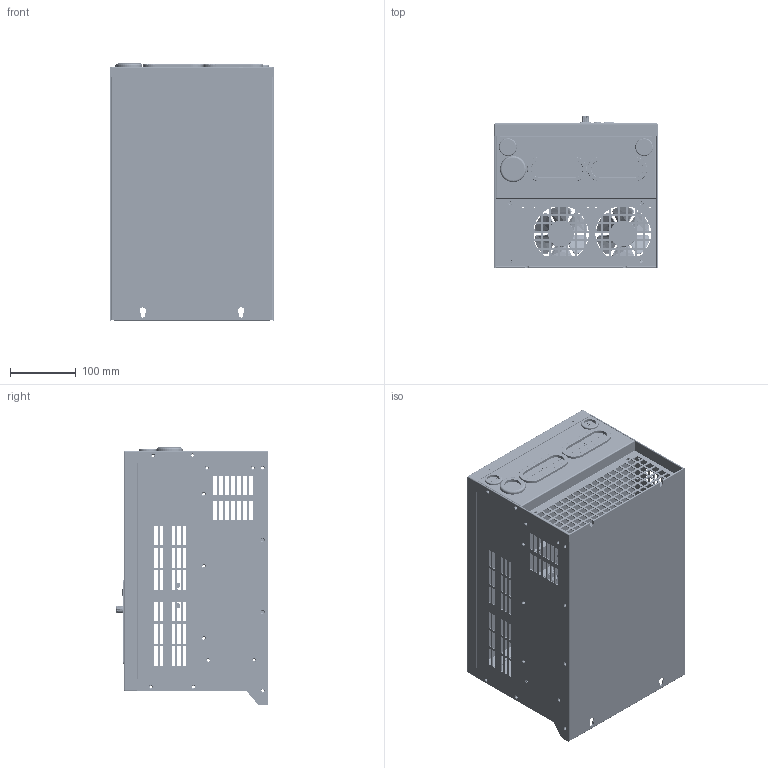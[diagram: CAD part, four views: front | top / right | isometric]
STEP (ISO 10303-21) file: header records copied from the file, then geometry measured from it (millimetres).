
FILE_DESCRIPTION((''),'2;1');
FILE_NAME('SD200-4T-22KW-30KW','2020-05-25T',('ranqinwen'),(''),'CREO PARAMETRIC BY PTC INC, 2016260','CREO PARAMETRIC BY PTC INC, 2016260','');
FILE_SCHEMA(('AUTOMOTIVE_DESIGN { 1 0 10303 214 1 1 1 1 }'));
Products named in the file (1): SD200-4T-22KW-30KW
Bounding box: 250 x 231.5 x 392.25 mm (x, y, z)
Surface area: 1451283.3 mm2 (no closed solid volume)
Topology: 0 solids, 170 shells, 7224 faces, 18913 edges, 11989 vertices
Faces by surface type: plane 4402, cylinder 1908, bspline 290, torus 256, extrusion 209, cone 129, sphere 26, revolution 4
Entity records: 321868 total; most frequent: CARTESIAN_POINT 62102, ORIENTED_EDGE 37774, DIRECTION 36075, PRESENTATION_STYLE_ASSIGNMENT 22253, STYLED_ITEM 19065, CURVE_STYLE 18895, EDGE_CURVE 18887, VECTOR 12955
